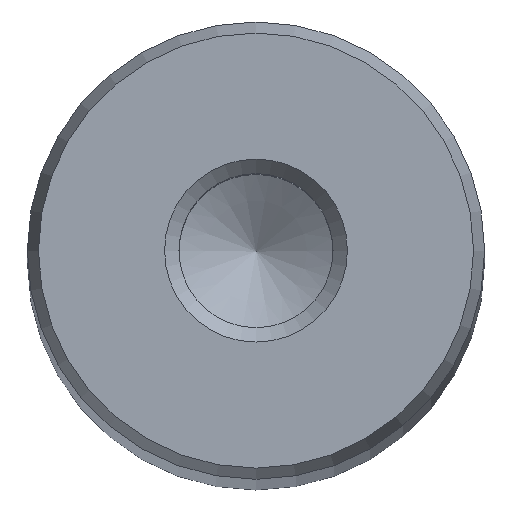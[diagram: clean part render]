
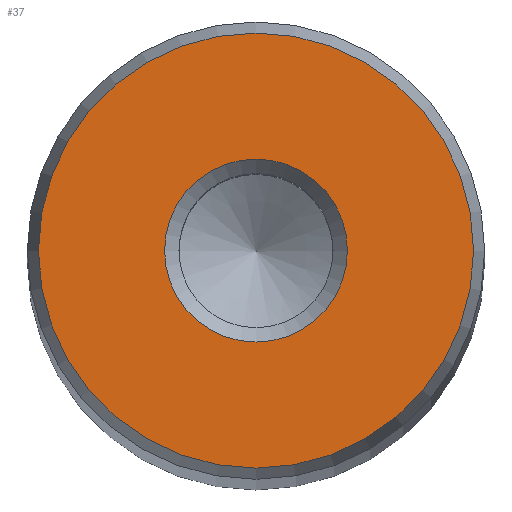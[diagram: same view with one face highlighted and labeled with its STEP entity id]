
A CAD part, top view. The second image highlights one B-rep face of the part: STEP entity #37.
In plain terms, the highlighted planar face has unit normal (0, 0, 1).
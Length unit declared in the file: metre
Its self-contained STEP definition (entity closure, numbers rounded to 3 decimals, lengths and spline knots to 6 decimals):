
#37 = ADVANCED_FACE( '', ( #80, #81 ), #82, .T. );
#80 = FACE_OUTER_BOUND( '', #139, .T. );
#81 = FACE_BOUND( '', #140, .T. );
#82 = PLANE( '', #141 );
#139 = EDGE_LOOP( '', ( #192 ) );
#140 = EDGE_LOOP( '', ( #193 ) );
#141 = AXIS2_PLACEMENT_3D( '', #194, #195, #196 );
#192 = ORIENTED_EDGE( '', *, *, #270, .T. );
#193 = ORIENTED_EDGE( '', *, *, #271, .T. );
#194 = CARTESIAN_POINT( '', ( 0., 0., 0.405 ) );
#195 = DIRECTION( '', ( 0., 0., 1. ) );
#196 = DIRECTION( '', ( 1., 0., 0. ) );
#270 = EDGE_CURVE( '', #297, #297, #298, .T. );
#271 = EDGE_CURVE( '', #299, #299, #300, .T. );
#297 = VERTEX_POINT( '', #334 );
#298 = CIRCLE( '', #335, 0.014272 );
#299 = VERTEX_POINT( '', #336 );
#300 = CIRCLE( '', #337, 0.006 );
#334 = CARTESIAN_POINT( '', ( 0.014272, 0., 0.405 ) );
#335 = AXIS2_PLACEMENT_3D( '', #370, #371, #372 );
#336 = CARTESIAN_POINT( '', ( 0.006, 0., 0.405 ) );
#337 = AXIS2_PLACEMENT_3D( '', #373, #374, #375 );
#370 = CARTESIAN_POINT( '', ( 0., 0., 0.405 ) );
#371 = DIRECTION( '', ( 0., 0., 1. ) );
#372 = DIRECTION( '', ( 1., 0., 0. ) );
#373 = CARTESIAN_POINT( '', ( 0., 0., 0.405 ) );
#374 = DIRECTION( '', ( 0., 0., -1. ) );
#375 = DIRECTION( '', ( 1., 0., 0. ) );
